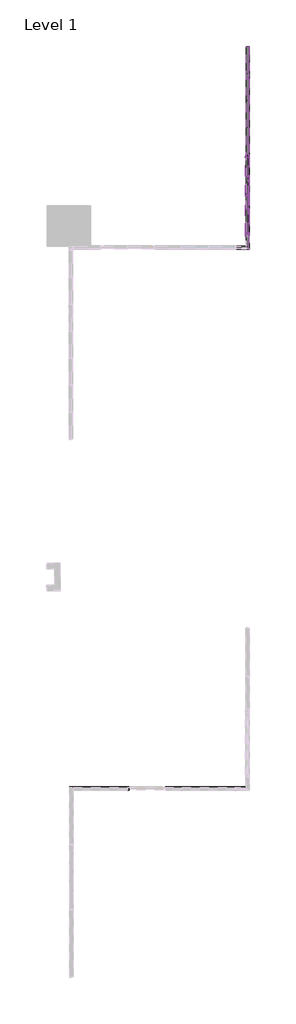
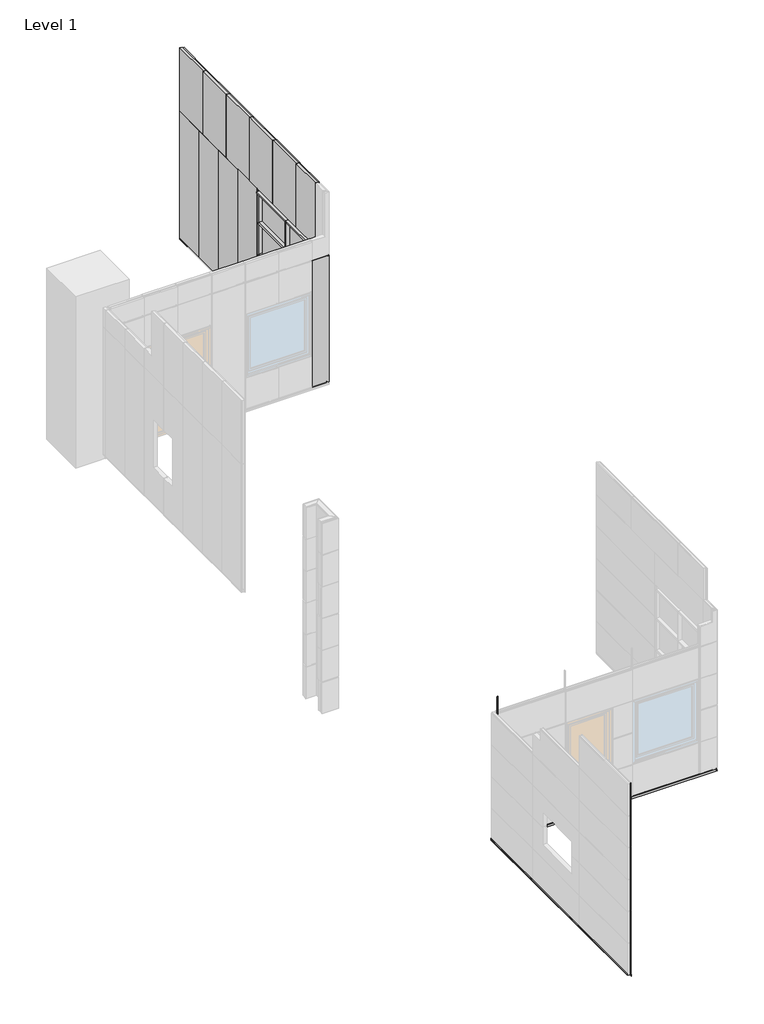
# One storey, part 5 of 8: 33 members, 20 plates, 3 beams, 2 columns.
"""IFC4 building model written with IfcOpenShell, lengths in millimetres."""

from ifc_helpers import new_model, si_unit, point, frame, frame_2d, origin, place, context, project, spatial, polyline, circle_curve, ellipse_curve, trimmed, segment, composite_curve, outline, extrude, faceted_brep, transform, mapped, element, save
from ifc_brep_helpers import plane_surface, cylinder_surface, revolved_surface, advanced_brep
from components import base_detail_680916aa, base_detail_6ba0f2dc, qo_joint_c_qo_joint_44e8b77c, qo_joint_c_qo_joint_5abcd862, rectangular_mullion_6f3fd3cb, rectangular_mullion_2ae66f48, rectangular_mullion_8cebfc19, rectangular_mullion_1268cc40, rectangular_mullion_a6eaba93, rectangular_mullion_80fd9f3b, rectangular_mullion_1b65c828, rectangular_mullion_08f30394, rectangular_mullion_c52893de, rectangular_mullion_283f794a, rectangular_mullion_61975473, rectangular_mullion_dd22ac08, rectangular_mullion_4b9d97d2, rectangular_mullion_3fa9cebb, rectangular_mullion_fb64a6f4, rectangular_mullion_b760c1d7, rectangular_mullion_efdcbe33, qb_typ_1_dcc568af, qb_typ_1_f948df83, qb_typ_3_3dfc6f2a, qb_typ_3_856d2326, qb_typ_3_84fac94e, system_panel_glazed_43ab654b, system_panel_glazed_616f128d, system_panel_glazed_14748420, system_panel_glazed_699b5b67

model = new_model("IFC4")

# Units and contexts
model_context = context("Model", 3, world=origin())
ifc_project = project(units=[si_unit("LENGTHUNIT", "METRE", prefix="MILLI")], contexts=[model_context])

# Site, building, storey
site = spatial("IfcSite", under=ifc_project)
building = spatial("IfcBuilding", under=site)
storey = spatial("IfcBuildingStorey", under=building, Name="Level 1", Elevation=0.0)

# Beams
placement = place(None, origin())
element("IfcBeam", 1, ObjectType="QO-H-02_01 Base : Base detail", at=placement, inside=storey, context=model_context, shape_type="SolidModel", body=[
    faceted_brep([(-3102.8000003, -11962.5017246, 158.1857205), (-3102.8000003, -11962.5017246, 143.1857205), (-3102.8000003, -11963.3017246, 143.1857205), (-3102.8000003, -11963.3017246, 157.3857205), (-3102.8000003, -11966.7017246, 157.3857205), (-3102.8000003, -11966.7017246, 117.4526556), (-3102.8000003, -11999.5761496, 114.5765161), (-3102.8000003, -11999.5761496, 67.2409519), (-3102.8000003, -11990.3352334, 76.4818682), (-3102.8000003, -11989.7695479, 75.9161827), (-3102.8000003, -12000.3761496, 65.309581), (-3102.8000003, -12000.3761496, 115.309581), (-3102.8000003, -11967.5017246, 118.1857205), (-3102.8000003, -11967.5017246, 158.1857205), (0.0, -11962.5017246, 158.1857205), (0.0, -11967.5017246, 158.1857205), (0.0, -11967.5017246, 118.1857205), (0.0, -12000.3761496, 115.309581), (0.0, -12000.3761496, 65.309581), (0.0, -11989.7695479, 75.9161827), (0.0, -11990.3352334, 76.4818682), (0.0, -11999.5761496, 67.2409519), (0.0, -11999.5761496, 114.5765161), (0.0, -11966.7017246, 117.4526556), (0.0, -11966.7017246, 157.3857205), (0.0, -11963.3017246, 157.3857205), (0.0, -11963.3017246, 143.1857205), (0.0, -11962.5017246, 143.1857205)], [[[0, 1, 2, 3, 4, 5, 6, 7, 8, 9, 10, 11, 12, 13]], [[14, 15, 16, 17, 18, 19, 20, 21, 22, 23, 24, 25, 26, 27]], [[1, 0, 14, 27]], [[2, 1, 27, 26]], [[3, 2, 26, 25]], [[4, 3, 25, 24]], [[5, 4, 24, 23]], [[6, 5, 23, 22]], [[7, 6, 22, 21]], [[8, 7, 21, 20]], [[9, 8, 20, 19]], [[10, 9, 19, 18]], [[11, 10, 18, 17]], [[12, 11, 17, 16]], [[13, 12, 16, 15]], [[0, 13, 15, 14]]]),
    faceted_brep([(-3102.8000003, -11962.5017246, 158.1857205), (-3102.8000003, -11962.5017246, 143.1857205), (-3102.8000003, -11963.3017246, 143.1857205), (-3102.8000003, -11963.3017246, 157.3857205), (-3102.8000003, -11966.7017246, 157.3857205), (-3102.8000003, -11966.7017246, 117.4526556), (-3102.8000003, -11999.5761496, 114.5765161), (-3102.8000003, -11999.5761496, 67.2409519), (-3102.8000003, -11990.3352334, 76.4818682), (-3102.8000003, -11989.7695479, 75.9161827), (-3102.8000003, -12000.3761496, 65.309581), (-3102.8000003, -12000.3761496, 115.309581), (-3102.8000003, -11967.5017246, 118.1857205), (-3102.8000003, -11967.5017246, 158.1857205), (-37.5982831, -11962.5017246, 158.1857205), (-37.5982831, -11962.5017246, 143.1857205), (-36.7982831, -11963.3017246, 143.1857205), (-36.7982831, -11963.3017246, 157.3857205), (-33.3982831, -11966.7017246, 157.3857205), (-33.3982831, -11966.7017246, 117.4526556), (-0.5238581, -11999.5761496, 114.5765161), (-0.5238581, -11999.5761496, 67.2409519), (-9.7647744, -11990.3352334, 76.4818682), (-10.3304598, -11989.7695479, 75.9161827), (0.0, -12000.1000078, 65.5857229), (0.0, -12000.3761496, 65.309581), (0.0, -12000.3761496, 115.309581), (0.0, -12000.1000078, 115.3337403), (-32.5982831, -11967.5017246, 118.1857205), (-32.5982831, -11967.5017246, 158.1857205)], [[[0, 1, 2, 3, 4, 5, 6, 7, 8, 9, 10, 11, 12, 13]], [[1, 0, 14, 15]], [[2, 1, 15, 16]], [[3, 2, 16, 17]], [[4, 3, 17, 18]], [[5, 4, 18, 19]], [[6, 5, 19, 20]], [[7, 6, 20, 21]], [[8, 7, 21, 22]], [[9, 8, 22, 23]], [[10, 9, 23, 24, 25]], [[11, 10, 25, 26]], [[12, 11, 26, 27, 28]], [[13, 12, 28, 29]], [[0, 13, 29, 14]], [[27, 26, 25, 24]], [[27, 24, 23, 22, 21, 20, 19, 18, 17, 16, 15, 14, 29, 28]]]),
    advanced_brep(
    [(0.0, -11878.6, 130.5), (0.0, -11875.6, 133.5), (0.0, -11875.6, 180.5), (0.0, -11877.1, 180.5), (0.0, -11877.1, 133.5), (0.0, -11878.6, 132.0), (0.0, -11945.6, 132.0), (0.0, -11945.6, 130.5), (-3102.8000003, -11878.6, 130.5), (-3102.8000003, -11945.6, 130.5), (-3102.8000003, -11945.6, 132.0), (-3102.8000003, -11878.6, 132.0), (-3102.8000003, -11877.1, 133.5), (-3102.8000003, -11877.1, 180.5), (-3102.8000003, -11875.6, 180.5), (-3102.8000003, -11875.6, 133.5)],
    [
        (0, 1, circle_curve(frame((0.0, -11878.6, 133.5), z_axis=(1.0, 0.0, 0.0), x_axis=(0.0, 1.0, 0.0)), 3.0)),
        (1, 2),
        (2, 3),
        (3, 4),
        (4, 5, circle_curve(frame((0.0, -11878.6, 133.5), z_axis=(-1.0, 0.0, 0.0), x_axis=(0.0, 1.0, 0.0)), 1.5)),
        (5, 6),
        (6, 7),
        (7, 0),
        (8, 9),
        (9, 10),
        (10, 11),
        (11, 12, circle_curve(frame((-3102.8000003, -11878.6, 133.5), z_axis=(1.0, 0.0, 0.0), x_axis=(0.0, 1.0, 0.0)), 1.5)),
        (12, 13),
        (13, 14),
        (14, 15),
        (15, 8, circle_curve(frame((-3102.8000003, -11878.6, 133.5), z_axis=(-1.0, 0.0, 0.0), x_axis=(0.0, 1.0, 0.0)), 3.0)),
        (0, 8),
        (15, 1),
        (14, 2),
        (13, 3),
        (12, 4),
        (11, 5),
        (10, 6),
        (9, 7),
    ],
    [
        plane_surface(frame((0.0, -11875.6, 133.5), z_axis=(1.0, 0.0, 0.0), x_axis=(0.0, 0.0, 1.0))),
        plane_surface(frame((-3102.8000003, -11875.6, 133.5), z_axis=(-1.0, 0.0, 0.0), x_axis=(0.0, 0.0, -1.0))),
        cylinder_surface(frame((-3102.8000003, -11878.6, 133.5), z_axis=(1.0, 0.0, 0.0), x_axis=(0.0, 1.0, 0.0)), 3.0),
        plane_surface(frame((0.0, -11875.6, 133.5), z_axis=(0.0, 1.0, 0.0), x_axis=(-1.0, 0.0, 0.0))),
        plane_surface(frame((0.0, -11875.6, 180.5), z_axis=(0.0, 0.0, 1.0), x_axis=(-1.0, 0.0, 0.0))),
        plane_surface(frame((0.0, -11877.1, 180.5), z_axis=(0.0, -1.0, 0.0), x_axis=(-1.0, 0.0, 0.0))),
        revolved_surface(polyline([(-3102.8000003, -11877.1, 133.5), (0.0, -11877.1, 133.5)]), (-3102.8000003, -11878.6, 133.5), (-1.0, 0.0, 0.0)),
        plane_surface(frame((0.0, -11878.6, 132.0), z_axis=(0.0, 0.0, 1.0), x_axis=(-1.0, 0.0, 0.0))),
        plane_surface(frame((0.0, -11945.6, 132.0), z_axis=(0.0, -1.0, 0.0), x_axis=(-1.0, 0.0, 0.0))),
        plane_surface(frame((0.0, -11945.6, 130.5), z_axis=(0.0, 0.0, -1.0), x_axis=(-1.0, 0.0, 0.0))),
    ],
    [
        (0, [[1, 2, 3, 4, 5, 6, 7, 8]]),
        (1, [[9, 10, 11, 12, 13, 14, 15, 16]]),
        (2, [[-1, 17, -16, 18]]),
        (3, [[-2, -18, -15, 19]]),
        (4, [[-3, -19, -14, 20]]),
        (5, [[-4, -20, -13, 21]]),
        (6, [[-5, -21, -12, 22]]),
        (7, [[-6, -22, -11, 23]]),
        (8, [[-7, -23, -10, 24]]),
        (9, [[-8, -24, -9, -17]]),
    ],
),
    advanced_brep(
    [(-3102.8000003, -11878.6, 130.5), (-3102.8000003, -11945.6, 130.5), (-3102.8000003, -11945.6, 132.0), (-3102.8000003, -11878.6, 132.0), (-3102.8000003, -11877.1, 133.5), (-3102.8000003, -11877.1, 180.5), (-3102.8000003, -11875.6, 180.5), (-3102.8000003, -11875.6, 133.5), (-54.5000078, -11945.6, 130.5), (-121.5000078, -11878.6, 130.5), (-54.5000078, -11945.6, 132.0), (-121.5000078, -11878.6, 132.0), (-123.0000078, -11877.1, 133.5), (-123.0000078, -11877.1, 180.5), (-124.5000078, -11875.6, 180.5), (-124.5000078, -11875.6, 133.5)],
    [
        (0, 1),
        (1, 2),
        (2, 3),
        (3, 4, circle_curve(frame((-3102.8000003, -11878.6, 133.5), z_axis=(1.0, 0.0, 0.0), x_axis=(0.0, 1.0, 0.0)), 1.5)),
        (4, 5),
        (5, 6),
        (6, 7),
        (7, 0, circle_curve(frame((-3102.8000003, -11878.6, 133.5), z_axis=(-1.0, 0.0, 0.0), x_axis=(0.0, 1.0, 0.0)), 3.0)),
        (8, 1),
        (0, 9),
        (9, 8),
        (10, 2),
        (8, 10),
        (11, 3),
        (10, 11),
        (12, 4),
        (11, 12, ellipse_curve(frame((-121.5000078, -11878.6, 133.5), z_axis=(0.7071067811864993, 0.7071067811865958, 0.0), x_axis=(-0.7071067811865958, 0.7071067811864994, 0.0)), 2.1213203, 1.5)),
        (13, 5),
        (12, 13),
        (14, 6),
        (13, 14),
        (15, 7),
        (14, 15),
        (15, 9, ellipse_curve(frame((-121.5000078, -11878.6, 133.5), z_axis=(-0.7071067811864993, -0.7071067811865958, 0.0), x_axis=(0.7071067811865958, -0.7071067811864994, 0.0)), 4.2426407, 3.0)),
    ],
    [
        plane_surface(frame((-3102.8000003, -11875.6, 133.5), z_axis=(-1.0, 0.0, 0.0), x_axis=(0.0, 0.0, -1.0))),
        plane_surface(frame((0.0, -11945.6, 130.5), z_axis=(0.0, 0.0, -1.0), x_axis=(-1.0, 0.0, 0.0))),
        plane_surface(frame((0.0, -11945.6, 132.0), z_axis=(0.0, -1.0, 0.0), x_axis=(-1.0, 0.0, 0.0))),
        plane_surface(frame((0.0, -11878.6, 132.0), z_axis=(0.0, 0.0, 1.0), x_axis=(-1.0, 0.0, 0.0))),
        revolved_surface(polyline([(-3102.8000003, -11877.1, 133.5), (-120.00000783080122, -11877.1, 133.5)]), (-3102.8000003, -11878.6, 133.5), (-1.0, 0.0, 0.0)),
        plane_surface(frame((0.0, -11877.1, 180.5), z_axis=(0.0, -1.0, 0.0), x_axis=(-1.0, 0.0, 0.0))),
        plane_surface(frame((0.0, -11875.6, 180.5), z_axis=(0.0, 0.0, 1.0), x_axis=(-1.0, 0.0, 0.0))),
        plane_surface(frame((0.0, -11875.6, 133.5), z_axis=(0.0, 1.0, 0.0), x_axis=(-1.0, 0.0, 0.0))),
        cylinder_surface(frame((-3102.8000003, -11878.6, 133.5), z_axis=(1.0, 0.0, 0.0), x_axis=(0.0, 1.0, 0.0)), 3.0),
        plane_surface(frame((0.0, -12000.1000078, 100000.0), z_axis=(0.7071067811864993, 0.7071067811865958, 0.0), x_axis=(-0.7071067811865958, 0.7071067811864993, 0.0))),
    ],
    [
        (0, [[1, 2, 3, 4, 5, 6, 7, 8]]),
        (1, [[9, -1, 10, 11]]),
        (2, [[12, -2, -9, 13]]),
        (3, [[14, -3, -12, 15]]),
        (4, [[16, -4, -14, 17]]),
        (5, [[18, -5, -16, 19]]),
        (6, [[20, -6, -18, 21]]),
        (7, [[22, -7, -20, 23]]),
        (8, [[-10, -8, -22, 24]]),
        (9, [[-24, -23, -21, -19, -17, -15, -13, -11]]),
    ],
),
    advanced_brep(
    [(-150.0, -11966.1, 157.0), (-150.0, -11964.1, 157.0), (-150.0, -11964.1, 136.0), (-150.0, -11962.1, 134.0), (-150.0, -11892.1, 134.0), (-150.0, -11890.1, 136.0), (-150.0, -11890.1, 157.0), (-150.0, -11888.1, 157.0), (-150.0, -11888.1, 136.0), (-150.0, -11892.1, 132.0), (-150.0, -11962.1, 132.0), (-150.0, -11966.1, 136.0), (0.0, -11966.1, 157.0), (0.0, -11966.1, 136.0), (0.0, -11962.1, 132.0), (0.0, -11892.1, 132.0), (0.0, -11888.1, 136.0), (0.0, -11888.1, 157.0), (0.0, -11890.1, 157.0), (0.0, -11890.1, 136.0), (0.0, -11892.1, 134.0), (0.0, -11962.1, 134.0), (0.0, -11964.1, 136.0), (0.0, -11964.1, 157.0)],
    [
        (0, 1),
        (1, 2),
        (2, 3, circle_curve(frame((-150.0, -11962.1, 136.0), z_axis=(1.0, 0.0, 0.0), x_axis=(0.0, -1.0, 0.0)), 2.0)),
        (3, 4),
        (4, 5, circle_curve(frame((-150.0, -11892.1, 136.0), z_axis=(1.0, 0.0, 0.0), x_axis=(0.0, -1.0, 0.0)), 2.0)),
        (5, 6),
        (6, 7),
        (7, 8),
        (8, 9, circle_curve(frame((-150.0, -11892.1, 136.0), z_axis=(-1.0, 0.0, 0.0), x_axis=(0.0, -1.0, 0.0)), 4.0)),
        (9, 10),
        (10, 11, circle_curve(frame((-150.0, -11962.1, 136.0), z_axis=(-1.0, 0.0, 0.0), x_axis=(0.0, -1.0, 0.0)), 4.0)),
        (11, 0),
        (12, 13),
        (13, 14, circle_curve(frame((0.0, -11962.1, 136.0), z_axis=(1.0, 0.0, 0.0), x_axis=(0.0, -1.0, 0.0)), 4.0)),
        (14, 15),
        (15, 16, circle_curve(frame((0.0, -11892.1, 136.0), z_axis=(1.0, 0.0, 0.0), x_axis=(0.0, -1.0, 0.0)), 4.0)),
        (16, 17),
        (17, 18),
        (18, 19),
        (19, 20, circle_curve(frame((0.0, -11892.1, 136.0), z_axis=(-1.0, 0.0, 0.0), x_axis=(0.0, -1.0, 0.0)), 2.0)),
        (20, 21),
        (21, 22, circle_curve(frame((0.0, -11962.1, 136.0), z_axis=(-1.0, 0.0, 0.0), x_axis=(0.0, -1.0, 0.0)), 2.0)),
        (22, 23),
        (23, 12),
        (0, 12),
        (23, 1),
        (22, 2),
        (21, 3),
        (20, 4),
        (19, 5),
        (18, 6),
        (17, 7),
        (16, 8),
        (15, 9),
        (14, 10),
        (13, 11),
    ],
    [
        plane_surface(frame((-150.0, -11966.1, 157.0), z_axis=(-1.0, 0.0, 0.0), x_axis=(0.0, 1.0, 0.0))),
        plane_surface(frame((0.0, -11966.1, 157.0), z_axis=(1.0, 0.0, 0.0), x_axis=(0.0, -1.0, 0.0))),
        plane_surface(frame((-150.0, -11966.1, 157.0), z_axis=(0.0, 0.0, 1.0), x_axis=(1.0, 0.0, 0.0))),
        plane_surface(frame((-150.0, -11964.1, 157.0), z_axis=(0.0, 1.0, 0.0), x_axis=(1.0, 0.0, 0.0))),
        revolved_surface(polyline([(0.0, -11964.1, 136.0), (-150.0, -11964.1, 136.0)]), (0.0, -11962.1, 136.0), (1.0, 0.0, 0.0)),
        plane_surface(frame((-150.0, -11962.1, 134.0), z_axis=(0.0, 0.0, 1.0), x_axis=(1.0, 0.0, 0.0))),
        revolved_surface(polyline([(0.0, -11894.1, 136.0), (-150.0, -11894.1, 136.0)]), (0.0, -11892.1, 136.0), (1.0, 0.0, 0.0)),
        plane_surface(frame((-150.0, -11890.1, 136.0), z_axis=(0.0, -1.0, 0.0), x_axis=(1.0, 0.0, 0.0))),
        plane_surface(frame((-150.0, -11890.1, 157.0), z_axis=(0.0, 0.0, 1.0), x_axis=(1.0, 0.0, 0.0))),
        plane_surface(frame((-150.0, -11888.1, 157.0), z_axis=(0.0, 1.0, 0.0), x_axis=(1.0, 0.0, 0.0))),
        cylinder_surface(frame((0.0, -11892.1, 136.0), z_axis=(-1.0, 0.0, 0.0), x_axis=(0.0, -1.0, 0.0)), 4.0),
        plane_surface(frame((-150.0, -11892.1, 132.0), z_axis=(0.0, 0.0, -1.0), x_axis=(1.0, 0.0, 0.0))),
        cylinder_surface(frame((0.0, -11962.1, 136.0), z_axis=(-1.0, 0.0, 0.0), x_axis=(0.0, -1.0, 0.0)), 4.0),
        plane_surface(frame((-150.0, -11966.1, 136.0), z_axis=(0.0, -1.0, 0.0), x_axis=(1.0, 0.0, 0.0))),
    ],
    [
        (0, [[1, 2, 3, 4, 5, 6, 7, 8, 9, 10, 11, 12]]),
        (1, [[13, 14, 15, 16, 17, 18, 19, 20, 21, 22, 23, 24]]),
        (2, [[-1, 25, -24, 26]]),
        (3, [[-2, -26, -23, 27]]),
        (4, [[-3, -27, -22, 28]]),
        (5, [[-4, -28, -21, 29]]),
        (6, [[-5, -29, -20, 30]]),
        (7, [[-6, -30, -19, 31]]),
        (8, [[-7, -31, -18, 32]]),
        (9, [[-8, -32, -17, 33]]),
        (10, [[-9, -33, -16, 34]]),
        (11, [[-10, -34, -15, 35]]),
        (12, [[-11, -35, -14, 36]]),
        (13, [[-12, -36, -13, -25]]),
    ],
),
    advanced_brep(
    [(-150.0, -11966.1, 157.0), (-150.0, -11964.1, 157.0), (-150.0, -11964.1, 136.0), (-150.0, -11962.1, 134.0), (-150.0, -11892.1, 134.0), (-150.0, -11890.1, 136.0), (-150.0, -11890.1, 157.0), (-150.0, -11888.1, 157.0), (-150.0, -11888.1, 136.0), (-150.0, -11892.1, 132.0), (-150.0, -11962.1, 132.0), (-150.0, -11966.1, 136.0), (-34.0000078, -11966.1, 157.0), (-36.0000078, -11964.1, 157.0), (-36.0000078, -11964.1, 136.0), (-38.0000078, -11962.1, 134.0), (-108.0000078, -11892.1, 134.0), (-110.0000078, -11890.1, 136.0), (-110.0000078, -11890.1, 157.0), (-112.0000078, -11888.1, 157.0), (-112.0000078, -11888.1, 136.0), (-108.0000078, -11892.1, 132.0), (-38.0000078, -11962.1, 132.0), (-34.0000078, -11966.1, 136.0)],
    [
        (0, 1),
        (1, 2),
        (2, 3, circle_curve(frame((-150.0, -11962.1, 136.0), z_axis=(1.0, 0.0, 0.0), x_axis=(0.0, -1.0, 0.0)), 2.0)),
        (3, 4),
        (4, 5, circle_curve(frame((-150.0, -11892.1, 136.0), z_axis=(1.0, 0.0, 0.0), x_axis=(0.0, -1.0, 0.0)), 2.0)),
        (5, 6),
        (6, 7),
        (7, 8),
        (8, 9, circle_curve(frame((-150.0, -11892.1, 136.0), z_axis=(-1.0, 0.0, 0.0), x_axis=(0.0, -1.0, 0.0)), 4.0)),
        (9, 10),
        (10, 11, circle_curve(frame((-150.0, -11962.1, 136.0), z_axis=(-1.0, 0.0, 0.0), x_axis=(0.0, -1.0, 0.0)), 4.0)),
        (11, 0),
        (0, 12),
        (12, 13),
        (13, 1),
        (13, 14),
        (14, 2),
        (14, 15, ellipse_curve(frame((-38.0000078, -11962.1, 136.0), z_axis=(0.7071067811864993, 0.7071067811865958, 0.0), x_axis=(0.7071067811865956, -0.7071067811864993, 0.0)), 2.8284271, 2.0)),
        (15, 3),
        (15, 16),
        (16, 4),
        (16, 17, ellipse_curve(frame((-108.0000078, -11892.1, 136.0), z_axis=(0.7071067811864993, 0.7071067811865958, 0.0), x_axis=(0.7071067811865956, -0.7071067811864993, 0.0)), 2.8284271, 2.0)),
        (17, 5),
        (17, 18),
        (18, 6),
        (18, 19),
        (19, 7),
        (19, 20),
        (20, 8),
        (20, 21, ellipse_curve(frame((-108.0000078, -11892.1, 136.0), z_axis=(-0.7071067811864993, -0.7071067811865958, 0.0), x_axis=(-0.7071067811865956, 0.7071067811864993, 0.0)), 5.6568542, 4.0)),
        (21, 9),
        (21, 22),
        (22, 10),
        (22, 23, ellipse_curve(frame((-38.0000078, -11962.1, 136.0), z_axis=(-0.7071067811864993, -0.7071067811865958, 0.0), x_axis=(-0.7071067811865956, 0.7071067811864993, 0.0)), 5.6568542, 4.0)),
        (23, 11),
        (23, 12),
    ],
    [
        plane_surface(frame((-150.0, -11966.1, 157.0), z_axis=(-1.0, 0.0, 0.0), x_axis=(0.0, 1.0, 0.0))),
        plane_surface(frame((-150.0, -11966.1, 157.0), z_axis=(0.0, 0.0, 1.0), x_axis=(1.0, 0.0, 0.0))),
        plane_surface(frame((-150.0, -11964.1, 157.0), z_axis=(0.0, 1.0, 0.0), x_axis=(1.0, 0.0, 0.0))),
        revolved_surface(polyline([(-36.0000078, -11964.1, 136.0), (-150.0, -11964.1, 136.0)]), (0.0, -11962.1, 136.0), (1.0, 0.0, 0.0)),
        plane_surface(frame((-150.0, -11962.1, 134.0), z_axis=(0.0, 0.0, 1.0), x_axis=(1.0, 0.0, 0.0))),
        revolved_surface(polyline([(-106.00000781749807, -11894.1, 136.0), (-150.0, -11894.1, 136.0)]), (0.0, -11892.1, 136.0), (1.0, 0.0, 0.0)),
        plane_surface(frame((-150.0, -11890.1, 136.0), z_axis=(0.0, -1.0, 0.0), x_axis=(1.0, 0.0, 0.0))),
        plane_surface(frame((-150.0, -11890.1, 157.0), z_axis=(0.0, 0.0, 1.0), x_axis=(1.0, 0.0, 0.0))),
        plane_surface(frame((-150.0, -11888.1, 157.0), z_axis=(0.0, 1.0, 0.0), x_axis=(1.0, 0.0, 0.0))),
        cylinder_surface(frame((0.0, -11892.1, 136.0), z_axis=(-1.0, 0.0, 0.0), x_axis=(0.0, -1.0, 0.0)), 4.0),
        plane_surface(frame((-150.0, -11892.1, 132.0), z_axis=(0.0, 0.0, -1.0), x_axis=(1.0, 0.0, 0.0))),
        cylinder_surface(frame((0.0, -11962.1, 136.0), z_axis=(-1.0, 0.0, 0.0), x_axis=(0.0, -1.0, 0.0)), 4.0),
        plane_surface(frame((-150.0, -11966.1, 136.0), z_axis=(0.0, -1.0, 0.0), x_axis=(1.0, 0.0, 0.0))),
        plane_surface(frame((0.0, -12000.1000078, 100000.0), z_axis=(0.7071067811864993, 0.7071067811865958, 0.0), x_axis=(-0.7071067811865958, 0.7071067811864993, 0.0))),
    ],
    [
        (0, [[1, 2, 3, 4, 5, 6, 7, 8, 9, 10, 11, 12]]),
        (1, [[-1, 13, 14, 15]]),
        (2, [[-2, -15, 16, 17]]),
        (3, [[-3, -17, 18, 19]]),
        (4, [[-4, -19, 20, 21]]),
        (5, [[-5, -21, 22, 23]]),
        (6, [[-6, -23, 24, 25]]),
        (7, [[-7, -25, 26, 27]]),
        (8, [[-8, -27, 28, 29]]),
        (9, [[-9, -29, 30, 31]]),
        (10, [[-10, -31, 32, 33]]),
        (11, [[-11, -33, 34, 35]]),
        (12, [[-12, -35, 36, -13]]),
        (13, [[-14, -36, -34, -32, -30, -28, -26, -24, -22, -20, -18, -16]]),
    ],
),
    extrude(outline(composite_curve([segment(polyline([(-11966.1, 157.0), (-11964.1, 157.0), (-11964.1, 136.0)]), True, "CONTINUOUS"), segment(trimmed(circle_curve(frame_2d((-11962.1, 136.0)), 2.0), [point((-11964.1, 136.0))], [point((-11962.1, 134.0))], True, "CARTESIAN"), True, "CONTINUOUS"), segment(polyline([(-11962.1, 134.0), (-11892.1, 134.0)]), True, "CONTINUOUS"), segment(trimmed(circle_curve(frame_2d((-11892.1, 136.0)), 2.0), [point((-11892.1, 134.0))], [point((-11890.1, 136.0))], True, "CARTESIAN"), True, "CONTINUOUS"), segment(polyline([(-11890.1, 136.0), (-11890.1, 157.0), (-11888.1, 157.0), (-11888.1, 136.0)]), True, "CONTINUOUS"), segment(trimmed(circle_curve(frame_2d((-11892.1, 136.0)), 4.0), [point((-11888.1, 136.0))], [point((-11892.1, 132.0))], False, "CARTESIAN"), True, "CONTINUOUS"), segment(polyline([(-11892.1, 132.0), (-11962.1, 132.0)]), True, "CONTINUOUS"), segment(trimmed(circle_curve(frame_2d((-11962.1, 136.0)), 4.0), [point((-11962.1, 132.0))], [point((-11966.1, 136.0))], False, "CARTESIAN"), True, "CONTINUOUS"), segment(polyline([(-11966.1, 136.0), (-11966.1, 157.0)]), True, "CONTINUOUS")], self_intersect=False)), frame((-1150.0, 0.0, 0.0), z_axis=(1.0, 0.0, 0.0), x_axis=(0.0, 1.0, 0.0)), (0.0, 0.0, 1.0), 150.0),
    extrude(outline(composite_curve([segment(polyline([(-11966.1, 157.0), (-11964.1, 157.0), (-11964.1, 136.0)]), True, "CONTINUOUS"), segment(trimmed(circle_curve(frame_2d((-11962.1, 136.0)), 2.0), [point((-11964.1, 136.0))], [point((-11962.1, 134.0))], True, "CARTESIAN"), True, "CONTINUOUS"), segment(polyline([(-11962.1, 134.0), (-11892.1, 134.0)]), True, "CONTINUOUS"), segment(trimmed(circle_curve(frame_2d((-11892.1, 136.0)), 2.0), [point((-11892.1, 134.0))], [point((-11890.1, 136.0))], True, "CARTESIAN"), True, "CONTINUOUS"), segment(polyline([(-11890.1, 136.0), (-11890.1, 157.0), (-11888.1, 157.0), (-11888.1, 136.0)]), True, "CONTINUOUS"), segment(trimmed(circle_curve(frame_2d((-11892.1, 136.0)), 4.0), [point((-11888.1, 136.0))], [point((-11892.1, 132.0))], False, "CARTESIAN"), True, "CONTINUOUS"), segment(polyline([(-11892.1, 132.0), (-11962.1, 132.0)]), True, "CONTINUOUS"), segment(trimmed(circle_curve(frame_2d((-11962.1, 136.0)), 4.0), [point((-11962.1, 132.0))], [point((-11966.1, 136.0))], False, "CARTESIAN"), True, "CONTINUOUS"), segment(polyline([(-11966.1, 136.0), (-11966.1, 157.0)]), True, "CONTINUOUS")], self_intersect=False)), frame((-3102.8000003, 0.0, 0.0), z_axis=(1.0, 0.0, 0.0), x_axis=(0.0, 1.0, 0.0)), (0.0, 0.0, 1.0), 150.0),
    extrude(outline(composite_curve([segment(polyline([(-11966.1, 157.0), (-11964.1, 157.0), (-11964.1, 136.0)]), True, "CONTINUOUS"), segment(trimmed(circle_curve(frame_2d((-11962.1, 136.0)), 2.0), [point((-11964.1, 136.0))], [point((-11962.1, 134.0))], True, "CARTESIAN"), True, "CONTINUOUS"), segment(polyline([(-11962.1, 134.0), (-11892.1, 134.0)]), True, "CONTINUOUS"), segment(trimmed(circle_curve(frame_2d((-11892.1, 136.0)), 2.0), [point((-11892.1, 134.0))], [point((-11890.1, 136.0))], True, "CARTESIAN"), True, "CONTINUOUS"), segment(polyline([(-11890.1, 136.0), (-11890.1, 157.0), (-11888.1, 157.0), (-11888.1, 136.0)]), True, "CONTINUOUS"), segment(trimmed(circle_curve(frame_2d((-11892.1, 136.0)), 4.0), [point((-11888.1, 136.0))], [point((-11892.1, 132.0))], False, "CARTESIAN"), True, "CONTINUOUS"), segment(polyline([(-11892.1, 132.0), (-11962.1, 132.0)]), True, "CONTINUOUS"), segment(trimmed(circle_curve(frame_2d((-11962.1, 136.0)), 4.0), [point((-11962.1, 132.0))], [point((-11966.1, 136.0))], False, "CARTESIAN"), True, "CONTINUOUS"), segment(polyline([(-11966.1, 136.0), (-11966.1, 157.0)]), True, "CONTINUOUS")], self_intersect=False)), frame((-2150.0, 0.0, 0.0), z_axis=(1.0, 0.0, 0.0), x_axis=(0.0, 1.0, 0.0)), (0.0, 0.0, 1.0), 150.0),
])
base_detail_shape = base_detail_680916aa(model_context)
element("IfcBeam", 2, ObjectType="QO-H-02_01 Base : Base detail", at=placement, inside=storey, context=model_context, shape_type="MappedRepresentation", body=[
    mapped(base_detail_shape, transform((-6529.0000002, -17655.0, 146.0), x_axis=(0.0, -1.0, 0.0), y_axis=(1.0, 0.0, 0.0), z_axis=(0.0, 0.0, 1.0))),
])
base_detail_2_shape = base_detail_6ba0f2dc(model_context)
element("IfcBeam", 3, ObjectType="QO-H-02_01 Base : Base detail", at=placement, inside=storey, context=model_context, shape_type="MappedRepresentation", body=[
    mapped(base_detail_2_shape, transform((-5516.0000002, -12000.1, 146.0), x_axis=(-1.0, 0.0, 0.0), y_axis=(0.0, -1.0, 0.0), z_axis=(0.0, 0.0, 1.0))),
])

# Columns
qo_joint_c_qo_joint_shape = qo_joint_c_qo_joint_44e8b77c(model_context)
element("IfcColumn", 4, ObjectType="QO Joint_C : QO Joint", at=placement, inside=storey, context=model_context, shape_type="MappedRepresentation", body=[
    mapped(qo_joint_c_qo_joint_shape, transform((-6529.0000002, -18905.0, 0.0), x_axis=(0.0, 1.0, 0.0), y_axis=(-1.0, 0.0, 0.0), z_axis=(0.0, 0.0, 1.0))),
])
qo_joint_c_qo_joint_2_shape = qo_joint_c_qo_joint_5abcd862(model_context)
element("IfcColumn", 5, ObjectType="QO Joint_C : QO Joint", at=placement, inside=storey, context=model_context, shape_type="MappedRepresentation", body=[
    mapped(qo_joint_c_qo_joint_2_shape, transform((-6516.5000002, -12000.1, 0.0), x_axis=(1.0, 0.0, 0.0), y_axis=(0.0, 1.0, 0.0), z_axis=(0.0, 0.0, 1.0))),
])

# Members
rectangular_mullion_shape = rectangular_mullion_6f3fd3cb(model_context)
element("IfcMember", 6, ObjectType="Rectangular Mullion : TR_CW_¸ALU_internal", at=placement, inside=storey, context=model_context, shape_type="MappedRepresentation", body=[
    mapped(rectangular_mullion_shape, transform((0.0, 9984.9, 2150.0), x_axis=(0.0, -1.0, 0.0), y_axis=(-1.0, 0.0, 0.0), z_axis=(0.0, 0.0, -1.0))),
])
rectangular_mullion_2_shape = rectangular_mullion_2ae66f48(model_context)
element("IfcMember", 7, ObjectType="Rectangular Mullion : TR_CW_¸ALU_internal", at=placement, inside=storey, context=model_context, shape_type="MappedRepresentation", body=[
    mapped(rectangular_mullion_2_shape, transform((0.0, 9984.9, 1267.5), x_axis=(0.0, -1.0, 0.0), y_axis=(-1.0, 0.0, 0.0), z_axis=(0.0, 0.0, -1.0))),
])
element("IfcMember", 8, ObjectType="Rectangular Mullion : TR_CW_¸ALU_internal", at=placement, inside=storey, context=model_context, shape_type="MappedRepresentation", body=[
    mapped(rectangular_mullion_2_shape, transform((0.0, 9984.9, 3150.0), x_axis=(0.0, -1.0, 0.0), y_axis=(-1.0, 0.0, 0.0), z_axis=(0.0, 0.0, -1.0))),
])
rectangular_mullion_3_shape = rectangular_mullion_8cebfc19(model_context)
element("IfcMember", 9, ObjectType="Rectangular Mullion : TR_CW_ALU_border_GROOVE", at=placement, inside=storey, context=model_context, shape_type="MappedRepresentation", body=[
    mapped(rectangular_mullion_3_shape, transform((0.0, 8484.9, 1150.0), x_axis=(0.0, -1.0, 0.0), y_axis=(-1.0, 0.0, 0.0), z_axis=(0.0, 0.0, -1.0))),
])
rectangular_mullion_4_shape = rectangular_mullion_1268cc40(model_context)
element("IfcMember", 10, ObjectType="Rectangular Mullion : TR_CW_ALU_border_TONGUE", at=placement, inside=storey, context=model_context, shape_type="MappedRepresentation", body=[
    mapped(rectangular_mullion_4_shape, transform((0.0, 11484.9, 4032.5), x_axis=(0.0, 1.0, 0.0), y_axis=(-1.0, 0.0, 0.0), z_axis=(0.0, 0.0, 1.0))),
])
rectangular_mullion_5_shape = rectangular_mullion_a6eaba93(model_context)
element("IfcMember", 11, ObjectType="Rectangular Mullion : TR_CW_ALU_border_GROOVE", at=placement, inside=storey, context=model_context, shape_type="MappedRepresentation", body=[
    mapped(rectangular_mullion_5_shape, transform((0.0, 8484.9, 3150.0), x_axis=(0.0, -1.0, 0.0), y_axis=(-1.0, 0.0, 0.0), z_axis=(0.0, 0.0, -1.0))),
])
rectangular_mullion_6_shape = rectangular_mullion_80fd9f3b(model_context)
element("IfcMember", 12, ObjectType="Rectangular Mullion : TR_CW_ALU_border_TONGUE", at=placement, inside=storey, context=model_context, shape_type="MappedRepresentation", body=[
    mapped(rectangular_mullion_6_shape, transform((0.0, 11484.9, 3150.0), x_axis=(0.0, 1.0, 0.0), y_axis=(-1.0, 0.0, 0.0), z_axis=(0.0, 0.0, 1.0))),
])
element("IfcMember", 13, ObjectType="Rectangular Mullion : TR_CW_ALU_border_GROOVE", at=placement, inside=storey, context=model_context, shape_type="MappedRepresentation", body=[
    mapped(rectangular_mullion_3_shape, transform((0.0, 8484.9, 2150.0), x_axis=(0.0, -1.0, 0.0), y_axis=(-1.0, 0.0, 0.0), z_axis=(0.0, 0.0, -1.0))),
])
element("IfcMember", 14, ObjectType="Rectangular Mullion : TR_CW_ALU_border_TONGUE", at=placement, inside=storey, context=model_context, shape_type="MappedRepresentation", body=[
    mapped(rectangular_mullion_6_shape, transform((0.0, 11484.9, 2150.0), x_axis=(0.0, 1.0, 0.0), y_axis=(-1.0, 0.0, 0.0), z_axis=(0.0, 0.0, 1.0))),
])
rectangular_mullion_7_shape = rectangular_mullion_1b65c828(model_context)
element("IfcMember", 15, ObjectType="Rectangular Mullion : TR_CW_ALU_border_TR_m", at=placement, inside=storey, context=model_context, shape_type="MappedRepresentation", body=[
    mapped(rectangular_mullion_7_shape, transform((0.0, 8484.9, 4150.0), x_axis=(0.0, 0.0, 1.0), y_axis=(-1.0, 0.0, 0.0), z_axis=(0.0, -1.0, 0.0))),
])
element("IfcMember", 16, ObjectType="Rectangular Mullion : TR_CW_ALU_border_TR_m", at=placement, inside=storey, context=model_context, shape_type="MappedRepresentation", body=[
    mapped(rectangular_mullion_7_shape, transform((0.0, 9984.9, 4150.0), x_axis=(0.0, 0.0, 1.0), y_axis=(-1.0, 0.0, 0.0), z_axis=(0.0, -1.0, 0.0))),
])
rectangular_mullion_8_shape = rectangular_mullion_08f30394(model_context)
element("IfcMember", 17, ObjectType="Rectangular Mullion : TR_CW_ALU_border_TR", at=placement, inside=storey, context=model_context, shape_type="MappedRepresentation", body=[
    mapped(rectangular_mullion_8_shape, transform((0.0, 11383.9, 1150.0), x_axis=(0.0, 0.0, -1.0), y_axis=(-1.0, 0.0, 0.0), z_axis=(0.0, 1.0, 0.0))),
])
rectangular_mullion_9_shape = rectangular_mullion_c52893de(model_context)
element("IfcMember", 18, ObjectType="Rectangular Mullion : TR_CW_ALU_border_TR", at=placement, inside=storey, context=model_context, shape_type="MappedRepresentation", body=[
    mapped(rectangular_mullion_9_shape, transform((0.0, 9984.9, 1150.0), x_axis=(0.0, 0.0, -1.0), y_axis=(-1.0, 0.0, 0.0), z_axis=(0.0, 1.0, 0.0))),
])
rectangular_mullion_10_shape = rectangular_mullion_283f794a(model_context)
element("IfcMember", 19, ObjectType="Rectangular Mullion : TR_CW_¸ALU_internal", at=placement, inside=storey, context=model_context, shape_type="MappedRepresentation", body=[
    mapped(rectangular_mullion_10_shape, transform((0.0, 10009.9, 3150.0), x_axis=(0.0, 0.0, 1.0), y_axis=(-1.0, 0.0, 0.0), z_axis=(0.0, -1.0, 0.0))),
])
element("IfcMember", 20, ObjectType="Rectangular Mullion : TR_CW_¸ALU_internal", at=placement, inside=storey, context=model_context, shape_type="MappedRepresentation", body=[
    mapped(rectangular_mullion_10_shape, transform((0.0, 10009.9, 2150.0), x_axis=(0.0, 0.0, 1.0), y_axis=(-1.0, 0.0, 0.0), z_axis=(0.0, -1.0, 0.0))),
])
rectangular_mullion_11_shape = rectangular_mullion_61975473(model_context)
element("IfcMember", 21, ObjectType="Rectangular Mullion : TR_CW_¸ALU_internal", at=placement, inside=storey, context=model_context, shape_type="MappedRepresentation", body=[
    mapped(rectangular_mullion_11_shape, transform((0.0, 8616.9, 3150.0), x_axis=(0.0, 0.0, 1.0), y_axis=(-1.0, 0.0, 0.0), z_axis=(0.0, -1.0, 0.0))),
])
element("IfcMember", 22, ObjectType="Rectangular Mullion : TR_CW_¸ALU_internal", at=placement, inside=storey, context=model_context, shape_type="MappedRepresentation", body=[
    mapped(rectangular_mullion_11_shape, transform((0.0, 8616.9, 2150.0), x_axis=(0.0, 0.0, 1.0), y_axis=(-1.0, 0.0, 0.0), z_axis=(0.0, -1.0, 0.0))),
])
rectangular_mullion_12_shape = rectangular_mullion_dd22ac08(model_context)
element("IfcMember", 23, ObjectType="Rectangular Mullion : QO-V-01_01 Joint", at=placement, inside=storey, context=model_context, shape_type="MappedRepresentation", body=[
    mapped(rectangular_mullion_12_shape, transform((0.0, 14484.9, 4150.0), x_axis=(0.0, 0.0, 1.0), y_axis=(-1.0, 0.0, 0.0), z_axis=(0.0, -1.0, 0.0))),
])
rectangular_mullion_13_shape = rectangular_mullion_4b9d97d2(model_context)
element("IfcMember", 24, ObjectType="Rectangular Mullion : QO-V-01_01 Joint", at=placement, inside=storey, context=model_context, shape_type="MappedRepresentation", body=[
    mapped(rectangular_mullion_13_shape, transform((0.0, 7999.9, 4150.0), x_axis=(0.0, 0.0, 1.0), y_axis=(-1.0, 0.0, 0.0), z_axis=(0.0, -1.0, 0.0))),
])
element("IfcMember", 25, ObjectType="Rectangular Mullion : QO-V-01_01 Joint", at=placement, inside=storey, context=model_context, shape_type="MappedRepresentation", body=[
    mapped(rectangular_mullion_12_shape, transform((0.0, 8484.9, 4150.0), x_axis=(0.0, 0.0, 1.0), y_axis=(-1.0, 0.0, 0.0), z_axis=(0.0, -1.0, 0.0))),
])
element("IfcMember", 26, ObjectType="Rectangular Mullion : QO-V-01_01 Joint", at=placement, inside=storey, context=model_context, shape_type="MappedRepresentation", body=[
    mapped(rectangular_mullion_12_shape, transform((0.0, 9484.9, 4150.0), x_axis=(0.0, 0.0, 1.0), y_axis=(-1.0, 0.0, 0.0), z_axis=(0.0, -1.0, 0.0))),
])
element("IfcMember", 27, ObjectType="Rectangular Mullion : QO-V-01_01 Joint", at=placement, inside=storey, context=model_context, shape_type="MappedRepresentation", body=[
    mapped(rectangular_mullion_12_shape, transform((0.0, 9484.9, 1150.0), x_axis=(0.0, 0.0, 1.0), y_axis=(-1.0, 0.0, 0.0), z_axis=(0.0, -1.0, 0.0))),
])
rectangular_mullion_14_shape = rectangular_mullion_3fa9cebb(model_context)
element("IfcMember", 28, ObjectType="Rectangular Mullion : QO-V-01_01 Joint", at=placement, inside=storey, context=model_context, shape_type="MappedRepresentation", body=[
    mapped(rectangular_mullion_14_shape, transform((0.0, 10484.9, 4150.0), x_axis=(0.0, 0.0, 1.0), y_axis=(-1.0, 0.0, 0.0), z_axis=(0.0, -1.0, 0.0))),
])
element("IfcMember", 29, ObjectType="Rectangular Mullion : QO-V-01_01 Joint", at=placement, inside=storey, context=model_context, shape_type="MappedRepresentation", body=[
    mapped(rectangular_mullion_14_shape, transform((0.0, 14284.9, 4150.0), x_axis=(0.0, 0.0, 1.0), y_axis=(-1.0, 0.0, 0.0), z_axis=(0.0, -1.0, 0.0))),
])
element("IfcMember", 30, ObjectType="Rectangular Mullion : QO-V-01_01 Joint", at=placement, inside=storey, context=model_context, shape_type="MappedRepresentation", body=[
    mapped(rectangular_mullion_14_shape, transform((0.0, 10484.9, 1150.0), x_axis=(0.0, 0.0, 1.0), y_axis=(-1.0, 0.0, 0.0), z_axis=(0.0, -1.0, 0.0))),
])
rectangular_mullion_15_shape = rectangular_mullion_fb64a6f4(model_context)
element("IfcMember", 31, ObjectType="Rectangular Mullion : QO-V-01_01 Joint", at=placement, inside=storey, context=model_context, shape_type="MappedRepresentation", body=[
    mapped(rectangular_mullion_15_shape, transform((0.0, 11484.9, 4150.0), x_axis=(0.0, 0.0, 1.0), y_axis=(-1.0, 0.0, 0.0), z_axis=(0.0, -1.0, 0.0))),
])
element("IfcMember", 32, ObjectType="Rectangular Mullion : QO-V-01_01 Joint", at=placement, inside=storey, context=model_context, shape_type="MappedRepresentation", body=[
    mapped(rectangular_mullion_15_shape, transform((0.0, 13084.9, 4150.0), x_axis=(0.0, 0.0, 1.0), y_axis=(-1.0, 0.0, 0.0), z_axis=(0.0, -1.0, 0.0))),
])
rectangular_mullion_16_shape = rectangular_mullion_b760c1d7(model_context)
element("IfcMember", 33, ObjectType="Rectangular Mullion : QO-V-01_01 Joint", at=placement, inside=storey, context=model_context, shape_type="MappedRepresentation", body=[
    mapped(rectangular_mullion_16_shape, transform((0.0, 12484.9, 4150.0), x_axis=(0.0, 0.0, 1.0), y_axis=(-1.0, 0.0, 0.0), z_axis=(0.0, -1.0, 0.0))),
])
element("IfcMember", 34, ObjectType="Rectangular Mullion : QO-V-01_01 Joint", at=placement, inside=storey, context=model_context, shape_type="MappedRepresentation", body=[
    mapped(rectangular_mullion_16_shape, transform((0.0, 11884.9, 4150.0), x_axis=(0.0, 0.0, 1.0), y_axis=(-1.0, 0.0, 0.0), z_axis=(0.0, -1.0, 0.0))),
])
rectangular_mullion_17_shape = rectangular_mullion_efdcbe33(model_context)
element("IfcMember", 35, ObjectType="Rectangular Mullion : QO-V-01_01 Joint", at=placement, inside=storey, context=model_context, shape_type="MappedRepresentation", body=[
    mapped(rectangular_mullion_17_shape, transform((0.0, 10684.9, 4150.0), x_axis=(0.0, 0.0, 1.0), y_axis=(-1.0, 0.0, 0.0), z_axis=(0.0, -1.0, 0.0))),
])
element("IfcMember", 36, ObjectType="Rectangular Mullion : QO-V-01_01 Joint", at=placement, inside=storey, context=model_context, shape_type="MappedRepresentation", body=[
    mapped(rectangular_mullion_17_shape, transform((0.0, 13484.9, 4150.0), x_axis=(0.0, 0.0, 1.0), y_axis=(-1.0, 0.0, 0.0), z_axis=(0.0, -1.0, 0.0))),
])
element("IfcMember", 37, ObjectType="Rectangular Mullion : QO-V-01_01 Joint", at=placement, inside=storey, context=model_context, shape_type="MappedRepresentation", body=[
    mapped(rectangular_mullion_17_shape, transform((0.0, 10684.9, 1150.0), x_axis=(0.0, 0.0, 1.0), y_axis=(-1.0, 0.0, 0.0), z_axis=(0.0, -1.0, 0.0))),
])
element("IfcMember", 38, ObjectType="Rectangular Mullion : QO-V-01_01 Joint", at=placement, inside=storey, context=model_context, shape_type="MappedRepresentation", body=[
    mapped(rectangular_mullion_12_shape, transform((0.0, 8484.9, 1150.0), x_axis=(0.0, 0.0, 1.0), y_axis=(-1.0, 0.0, 0.0), z_axis=(0.0, -1.0, 0.0))),
])

# Plates
qb_typ_1_shape = qb_typ_1_dcc568af(model_context)
element("IfcPlate", 39, ObjectType="TR_C_V_QBISS_Panel : QB TYP 1", at=placement, inside=storey, context=model_context, shape_type="MappedRepresentation", body=[
    mapped(qb_typ_1_shape, transform((0.0, 14884.9, 4150.0), x_axis=(0.0, -1.0, 0.0), y_axis=(1.0, 0.0, 0.0), z_axis=(0.0, 0.0, 1.0))),
])
qb_typ_1_2_shape = qb_typ_1_f948df83(model_context)
element("IfcPlate", 40, ObjectType="TR_C_V_QBISS_Panel : QB TYP 1", at=placement, inside=storey, context=model_context, shape_type="MappedRepresentation", body=[
    mapped(qb_typ_1_2_shape, transform((0.0, 8984.9, 4150.0), x_axis=(0.0, -1.0, 0.0), y_axis=(1.0, 0.0, 0.0), z_axis=(0.0, 0.0, 1.0))),
])
element("IfcPlate", 41, ObjectType="TR_C_V_QBISS_Panel : QB TYP 1", at=placement, inside=storey, context=model_context, shape_type="MappedRepresentation", body=[
    mapped(qb_typ_1_shape, transform((0.0, 10084.9, 4150.0), x_axis=(0.0, -1.0, 0.0), y_axis=(1.0, 0.0, 0.0), z_axis=(0.0, 0.0, 1.0))),
])
element("IfcPlate", 42, ObjectType="TR_C_V_QBISS_Panel : QB TYP 1", at=placement, inside=storey, context=model_context, shape_type="MappedRepresentation", body=[
    mapped(qb_typ_1_shape, transform((0.0, 11284.9, 4150.0), x_axis=(0.0, -1.0, 0.0), y_axis=(1.0, 0.0, 0.0), z_axis=(0.0, 0.0, 1.0))),
])
element("IfcPlate", 43, ObjectType="TR_C_V_QBISS_Panel : QB TYP 1", at=placement, inside=storey, context=model_context, shape_type="MappedRepresentation", body=[
    mapped(qb_typ_1_shape, transform((0.0, 12484.9, 4150.0), x_axis=(0.0, -1.0, 0.0), y_axis=(1.0, 0.0, 0.0), z_axis=(0.0, 0.0, 1.0))),
])
element("IfcPlate", 44, ObjectType="TR_C_V_QBISS_Panel : QB TYP 1", at=placement, inside=storey, context=model_context, shape_type="MappedRepresentation", body=[
    mapped(qb_typ_1_shape, transform((0.0, 13684.9, 4150.0), x_axis=(0.0, -1.0, 0.0), y_axis=(1.0, 0.0, 0.0), z_axis=(0.0, 0.0, 1.0))),
])
qb_typ_3_shape = qb_typ_3_3dfc6f2a(model_context)
element("IfcPlate", 45, ObjectType="TR_C_V_QBISS_Panel : QB TYP 3", at=placement, inside=storey, context=model_context, shape_type="MappedRepresentation", body=[
    mapped(qb_typ_3_shape, transform((0.0, 14984.9, 150.0), x_axis=(0.0, -1.0, 0.0), y_axis=(1.0, 0.0, 0.0), z_axis=(0.0, 0.0, 1.0))),
])
qb_typ_3_2_shape = qb_typ_3_856d2326(model_context)
element("IfcPlate", 46, ObjectType="TR_C_V_QBISS_Panel : QB TYP 3", at=placement, inside=storey, context=model_context, shape_type="MappedRepresentation", body=[
    mapped(qb_typ_3_2_shape, transform((0.0, 8984.9, 150.0), x_axis=(0.0, -1.0, 0.0), y_axis=(1.0, 0.0, 0.0), z_axis=(0.0, 0.0, 1.0))),
])
element("IfcPlate", 47, ObjectType="TR_C_V_QBISS_Panel : QB TYP 3", at=placement, inside=storey, context=model_context, shape_type="MappedRepresentation", body=[
    mapped(qb_typ_3_2_shape, transform((0.0, 9984.9, 150.0), x_axis=(0.0, -1.0, 0.0), y_axis=(1.0, 0.0, 0.0), z_axis=(0.0, 0.0, 1.0))),
])
element("IfcPlate", 48, ObjectType="TR_C_V_QBISS_Panel : QB TYP 3", at=placement, inside=storey, context=model_context, shape_type="MappedRepresentation", body=[
    mapped(qb_typ_3_2_shape, transform((0.0, 10984.9, 150.0), x_axis=(0.0, -1.0, 0.0), y_axis=(1.0, 0.0, 0.0), z_axis=(0.0, 0.0, 1.0))),
])
element("IfcPlate", 49, ObjectType="TR_C_V_QBISS_Panel : QB TYP 3", at=placement, inside=storey, context=model_context, shape_type="MappedRepresentation", body=[
    mapped(qb_typ_3_shape, transform((0.0, 11984.9, 150.0), x_axis=(0.0, -1.0, 0.0), y_axis=(1.0, 0.0, 0.0), z_axis=(0.0, 0.0, 1.0))),
])
element("IfcPlate", 50, ObjectType="TR_C_V_QBISS_Panel : QB TYP 3", at=placement, inside=storey, context=model_context, shape_type="MappedRepresentation", body=[
    mapped(qb_typ_3_shape, transform((0.0, 12984.9, 150.0), x_axis=(0.0, -1.0, 0.0), y_axis=(1.0, 0.0, 0.0), z_axis=(0.0, 0.0, 1.0))),
])
element("IfcPlate", 51, ObjectType="TR_C_V_QBISS_Panel : QB TYP 3", at=placement, inside=storey, context=model_context, shape_type="MappedRepresentation", body=[
    mapped(qb_typ_3_shape, transform((0.0, 13984.9, 150.0), x_axis=(0.0, -1.0, 0.0), y_axis=(1.0, 0.0, 0.0), z_axis=(0.0, 0.0, 1.0))),
])
qb_typ_3_3_shape = qb_typ_3_84fac94e(model_context)
element("IfcPlate", 52, ObjectType="TR_C_V_QBISS_Corner_Long_A : QB TYP 3", at=placement, inside=storey, context=model_context, shape_type="MappedRepresentation", body=[
    mapped(qb_typ_3_3_shape, transform((0.0, 8242.4, 150.0), x_axis=(0.0, -1.0, 0.0), y_axis=(1.0, 0.0, 0.0), z_axis=(0.0, 0.0, 1.0))),
])
system_panel_glazed_shape = system_panel_glazed_43ab654b(model_context)
element("IfcPlate", 53, ObjectType="System Panel : Glazed", at=placement, inside=storey, context=model_context, shape_type="MappedRepresentation", body=[
    mapped(system_panel_glazed_shape, transform((0.0, 10696.9, 1252.5), x_axis=(0.0, -1.0, 0.0), y_axis=(1.0, 0.0, 0.0), z_axis=(0.0, 0.0, 1.0))),
])
element("IfcPlate", 54, ObjectType="System Panel : Glazed", at=placement, inside=storey, context=model_context, shape_type="MappedRepresentation", body=[
    mapped(system_panel_glazed_shape, transform((0.0, 10696.9, 3160.0), x_axis=(0.0, -1.0, 0.0), y_axis=(1.0, 0.0, 0.0), z_axis=(0.0, 0.0, 1.0))),
])
system_panel_glazed_2_shape = system_panel_glazed_616f128d(model_context)
element("IfcPlate", 55, ObjectType="System Panel : Glazed", at=placement, inside=storey, context=model_context, shape_type="MappedRepresentation", body=[
    mapped(system_panel_glazed_2_shape, transform((0.0, 9288.4, 1252.5), x_axis=(0.0, -1.0, 0.0), y_axis=(1.0, 0.0, 0.0), z_axis=(0.0, 0.0, 1.0))),
])
element("IfcPlate", 56, ObjectType="System Panel : Glazed", at=placement, inside=storey, context=model_context, shape_type="MappedRepresentation", body=[
    mapped(system_panel_glazed_2_shape, transform((0.0, 9288.4, 3160.0), x_axis=(0.0, -1.0, 0.0), y_axis=(1.0, 0.0, 0.0), z_axis=(0.0, 0.0, 1.0))),
])
system_panel_glazed_3_shape = system_panel_glazed_14748420(model_context)
element("IfcPlate", 57, ObjectType="System Panel : Glazed", at=placement, inside=storey, context=model_context, shape_type="MappedRepresentation", body=[
    mapped(system_panel_glazed_3_shape, transform((0.0, 10696.9, 2160.0), x_axis=(0.0, -1.0, 0.0), y_axis=(1.0, 0.0, 0.0), z_axis=(0.0, 0.0, 1.0))),
])
system_panel_glazed_4_shape = system_panel_glazed_699b5b67(model_context)
element("IfcPlate", 58, ObjectType="System Panel : Glazed", at=placement, inside=storey, context=model_context, shape_type="MappedRepresentation", body=[
    mapped(system_panel_glazed_4_shape, transform((0.0, 9288.4, 2160.0), x_axis=(0.0, -1.0, 0.0), y_axis=(1.0, 0.0, 0.0), z_axis=(0.0, 0.0, 1.0))),
])

save(model, "model.ifc")
